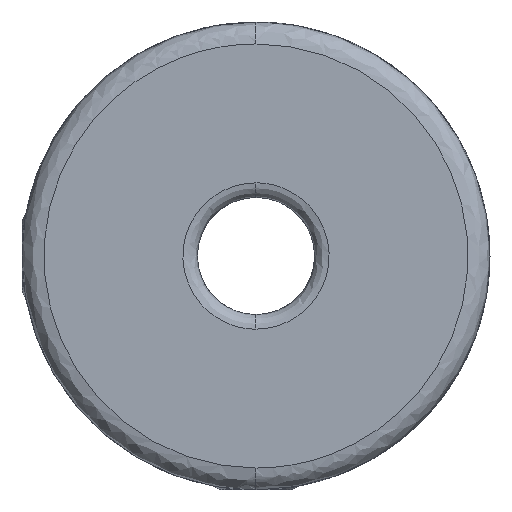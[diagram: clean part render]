
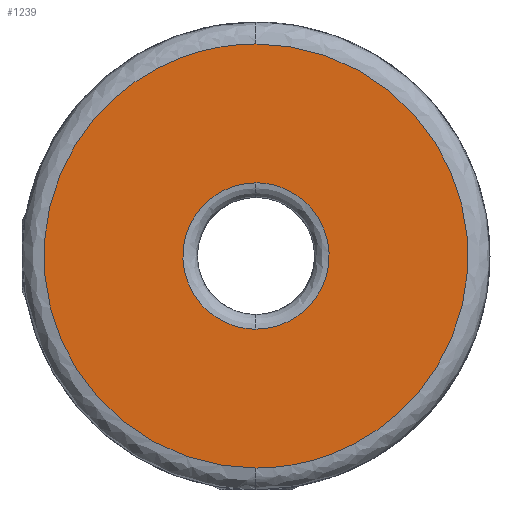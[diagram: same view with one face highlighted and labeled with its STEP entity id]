
A CAD part, left-side view. The second image highlights one B-rep face of the part: STEP entity #1239.
In plain terms, the highlighted planar face has unit normal (-1, 0, 0).
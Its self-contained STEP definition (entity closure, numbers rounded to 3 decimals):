
#846 = EDGE_CURVE ( 'NONE', #847, #848, #2226, .T. ) ;
#847 = VERTEX_POINT ( 'NONE', #2209 ) ;
#848 = VERTEX_POINT ( 'NONE', #2227 ) ;
#910 = EDGE_CURVE ( 'NONE', #1068, #911, #2583, .T. ) ;
#911 = VERTEX_POINT ( 'NONE', #2585 ) ;
#1068 = VERTEX_POINT ( 'NONE', #2844 ) ;
#1239 = ADVANCED_FACE ( 'NONE', ( #3928, #3927 ), #3956, .F. ) ;
#1240 = EDGE_LOOP ( 'NONE', ( #1332, #1333 ) ) ;
#1251 = EDGE_CURVE ( 'NONE', #911, #1068, #4129, .T. ) ;
#1332 = ORIENTED_EDGE ( 'NONE', *, *, #1251, .F. ) ;
#1333 = ORIENTED_EDGE ( 'NONE', *, *, #910, .F. ) ;
#1334 = EDGE_LOOP ( 'NONE', ( #1335, #1339 ) ) ;
#1335 = ORIENTED_EDGE ( 'NONE', *, *, #846, .F. ) ;
#1339 = ORIENTED_EDGE ( 'NONE', *, *, #1340, .F. ) ;
#1340 = EDGE_CURVE ( 'NONE', #848, #847, #4497, .T. ) ;
#2205 = CARTESIAN_POINT ( 'NONE',  ( -9., 0., 2.5 ) ) ;
#2206 = CARTESIAN_POINT ( 'NONE',  ( -9., -5., 2.5 ) ) ;
#2207 = CARTESIAN_POINT ( 'NONE',  ( -9., -5., -2.5 ) ) ;
#2208 = CARTESIAN_POINT ( 'NONE',  ( -9., 0., -2.5 ) ) ;
#2209 = CARTESIAN_POINT ( 'NONE',  ( -9., 0., -2.5 ) ) ;
#2226 =( BOUNDED_CURVE ( )  B_SPLINE_CURVE ( 3, ( #2208, #2207, #2206, #2205 ),
 .UNSPECIFIED., .F., .T. ) 
 B_SPLINE_CURVE_WITH_KNOTS ( ( 4, 4 ),
 ( 0., 0.5 ),
 .UNSPECIFIED. ) 
 CURVE ( )  GEOMETRIC_REPRESENTATION_ITEM ( )  RATIONAL_B_SPLINE_CURVE ( ( 1., 0.333, 0.333, 1. ) ) 
 REPRESENTATION_ITEM ( '' )  );
#2227 = CARTESIAN_POINT ( 'NONE',  ( -9., 0., 2.5 ) ) ;
#2579 = CARTESIAN_POINT ( 'NONE',  ( -9., 0., -7.25 ) ) ;
#2580 = CARTESIAN_POINT ( 'NONE',  ( -9., -14.5, -7.25 ) ) ;
#2581 = CARTESIAN_POINT ( 'NONE',  ( -9., -14.5, 7.25 ) ) ;
#2582 = CARTESIAN_POINT ( 'NONE',  ( -9., 0., 7.25 ) ) ;
#2583 =( BOUNDED_CURVE ( )  B_SPLINE_CURVE ( 3, ( #2582, #2581, #2580, #2579 ),
 .UNSPECIFIED., .F., .T. ) 
 B_SPLINE_CURVE_WITH_KNOTS ( ( 4, 4 ),
 ( 0.5, 1. ),
 .UNSPECIFIED. ) 
 CURVE ( )  GEOMETRIC_REPRESENTATION_ITEM ( )  RATIONAL_B_SPLINE_CURVE ( ( 1., 0.333, 0.333, 1. ) ) 
 REPRESENTATION_ITEM ( '' )  );
#2585 = CARTESIAN_POINT ( 'NONE',  ( -9., 0., -7.25 ) ) ;
#2844 = CARTESIAN_POINT ( 'NONE',  ( -9., 0., 7.25 ) ) ;
#3927 = FACE_BOUND ( 'NONE', #1334, .T. ) ;
#3928 = FACE_OUTER_BOUND ( 'NONE', #1240, .T. ) ;
#3952 = DIRECTION ( 'NONE',  ( 0., 0., -1. ) ) ;
#3953 = DIRECTION ( 'NONE',  ( 1., 0., 0. ) ) ;
#3954 = CARTESIAN_POINT ( 'NONE',  ( -9., 0., 0. ) ) ;
#3955 = AXIS2_PLACEMENT_3D ( 'NONE', #3954, #3953, #3952 ) ;
#3956 = PLANE ( 'NONE',  #3955 ) ;
#4102 = CARTESIAN_POINT ( 'NONE',  ( -9., 0., 7.25 ) ) ;
#4103 = CARTESIAN_POINT ( 'NONE',  ( -9., 14.5, 7.25 ) ) ;
#4104 = CARTESIAN_POINT ( 'NONE',  ( -9., 14.5, -7.25 ) ) ;
#4105 = CARTESIAN_POINT ( 'NONE',  ( -9., 0., -7.25 ) ) ;
#4129 =( BOUNDED_CURVE ( )  B_SPLINE_CURVE ( 3, ( #4105, #4104, #4103, #4102 ),
 .UNSPECIFIED., .F., .T. ) 
 B_SPLINE_CURVE_WITH_KNOTS ( ( 4, 4 ),
 ( 0., 0.5 ),
 .UNSPECIFIED. ) 
 CURVE ( )  GEOMETRIC_REPRESENTATION_ITEM ( )  RATIONAL_B_SPLINE_CURVE ( ( 1., 0.333, 0.333, 1. ) ) 
 REPRESENTATION_ITEM ( '' )  );
#4497 =( BOUNDED_CURVE ( )  B_SPLINE_CURVE ( 3, ( #4538, #4507, #4506, #4505 ),
 .UNSPECIFIED., .F., .T. ) 
 B_SPLINE_CURVE_WITH_KNOTS ( ( 4, 4 ),
 ( 0.5, 1. ),
 .UNSPECIFIED. ) 
 CURVE ( )  GEOMETRIC_REPRESENTATION_ITEM ( )  RATIONAL_B_SPLINE_CURVE ( ( 1., 0.333, 0.333, 1. ) ) 
 REPRESENTATION_ITEM ( '' )  );
#4505 = CARTESIAN_POINT ( 'NONE',  ( -9., 0., -2.5 ) ) ;
#4506 = CARTESIAN_POINT ( 'NONE',  ( -9., 5., -2.5 ) ) ;
#4507 = CARTESIAN_POINT ( 'NONE',  ( -9., 5., 2.5 ) ) ;
#4538 = CARTESIAN_POINT ( 'NONE',  ( -9., 0., 2.5 ) ) ;
